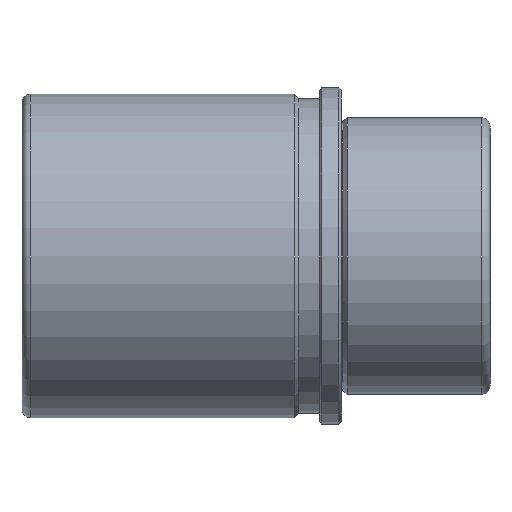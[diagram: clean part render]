
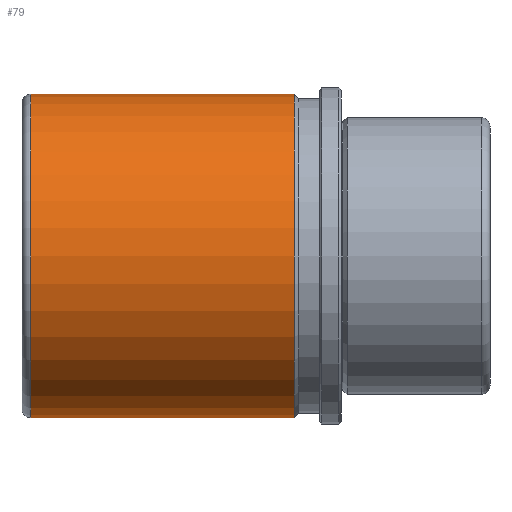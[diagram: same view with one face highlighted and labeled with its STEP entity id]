
A CAD part, front view. The second image highlights one B-rep face of the part: STEP entity #79.
In plain terms, the highlighted cylindrical face has radius 38 mm (diameter 76 mm), a full revolution.
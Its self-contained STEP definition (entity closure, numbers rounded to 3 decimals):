
#79 = ADVANCED_FACE( '', ( #173, #174, #175 ), #176, .T. );
#173 = FACE_OUTER_BOUND( '', #266, .T. );
#174 = FACE_BOUND( '', #267, .T. );
#175 = FACE_OUTER_BOUND( '', #268, .T. );
#176 = CYLINDRICAL_SURFACE( '', #269, 38. );
#266 = EDGE_LOOP( '', ( #387 ) );
#267 = EDGE_LOOP( '', ( #388 ) );
#268 = EDGE_LOOP( '', ( #389 ) );
#269 = AXIS2_PLACEMENT_3D( '', #390, #391, #392 );
#387 = ORIENTED_EDGE( '', *, *, #439, .T. );
#388 = ORIENTED_EDGE( '', *, *, #437, .T. );
#389 = ORIENTED_EDGE( '', *, *, #443, .F. );
#390 = CARTESIAN_POINT( '', ( 35., 0., 0. ) );
#391 = DIRECTION( '', ( -1., 0., 0. ) );
#392 = DIRECTION( '', ( 0., 0., -1. ) );
#437 = EDGE_CURVE( '', #495, #495, #496, .T. );
#439 = EDGE_CURVE( '', #498, #498, #499, .T. );
#443 = EDGE_CURVE( '', #504, #504, #505, .T. );
#495 = VERTEX_POINT( '', #625 );
#496 = B_SPLINE_CURVE_WITH_KNOTS( '', 3, ( #626, #627, #628, #629, #630, #631, #632, #633, #634, #635, #636, #637, #638, #639, #640, #641, #642, #643, #644, #645, #646, #647, #648, #649, #650, #651, #652, #653, #654, #655, #656, #657, #658, #659, #660, #661, #662, #663, #664, #665, #666, #667, #668, #669, #670, #671, #672, #673, #674, #675, #676, #677, #678, #679, #680, #681, #682, #683, #684, #685, #686, #687, #688, #689, #690, #691 ), .UNSPECIFIED., .T., .F., ( 2, 2, 2, 2, 2, 2, 2, 2, 2, 2, 2, 2, 2, 2, 2, 2, 2, 2, 2, 2, 2, 2, 2, 2, 2, 2, 2, 2, 2, 2, 2, 2, 2, 2, 2 ), ( -0.001, 0., 0.001, 0.002, 0.002, 0.003, 0.004, 0.005, 0.006, 0.007, 0.007, 0.008, 0.009, 0.01, 0.011, 0.011, 0.012, 0.013, 0.014, 0.015, 0.016, 0.016, 0.017, 0.018, 0.019, 0.02, 0.02, 0.021, 0.022, 0.023, 0.024, 0.025, 0.025, 0.026, 0.027 ), .UNSPECIFIED. );
#498 = VERTEX_POINT( '', #693 );
#499 = CIRCLE( '', #694, 38. );
#504 = VERTEX_POINT( '', #699 );
#505 = CIRCLE( '', #700, 38. );
#625 = CARTESIAN_POINT( '', ( -18., 37.769, -4.188 ) );
#626 = CARTESIAN_POINT( '', ( -18.277, 37.769, -4.188 ) );
#627 = CARTESIAN_POINT( '', ( -17.723, 37.769, -4.188 ) );
#628 = CARTESIAN_POINT( '', ( -17.451, 37.772, -4.161 ) );
#629 = CARTESIAN_POINT( '', ( -16.915, 37.783, -4.054 ) );
#630 = CARTESIAN_POINT( '', ( -16.649, 37.792, -3.974 ) );
#631 = CARTESIAN_POINT( '', ( -16.142, 37.813, -3.763 ) );
#632 = CARTESIAN_POINT( '', ( -15.902, 37.826, -3.635 ) );
#633 = CARTESIAN_POINT( '', ( -15.447, 37.854, -3.331 ) );
#634 = CARTESIAN_POINT( '', ( -15.231, 37.869, -3.154 ) );
#635 = CARTESIAN_POINT( '', ( -14.845, 37.9, -2.768 ) );
#636 = CARTESIAN_POINT( '', ( -14.672, 37.915, -2.557 ) );
#637 = CARTESIAN_POINT( '', ( -14.366, 37.943, -2.1 ) );
#638 = CARTESIAN_POINT( '', ( -14.236, 37.955, -1.856 ) );
#639 = CARTESIAN_POINT( '', ( -14.027, 37.977, -1.352 ) );
#640 = CARTESIAN_POINT( '', ( -13.946, 37.985, -1.088 ) );
#641 = CARTESIAN_POINT( '', ( -13.839, 37.997, -0.548 ) );
#642 = CARTESIAN_POINT( '', ( -13.812, 38., -0.276 ) );
#643 = CARTESIAN_POINT( '', ( -13.812, 38., 0.271 ) );
#644 = CARTESIAN_POINT( '', ( -13.839, 37.997, 0.549 ) );
#645 = CARTESIAN_POINT( '', ( -13.946, 37.985, 1.086 ) );
#646 = CARTESIAN_POINT( '', ( -14.025, 37.977, 1.347 ) );
#647 = CARTESIAN_POINT( '', ( -14.235, 37.956, 1.854 ) );
#648 = CARTESIAN_POINT( '', ( -14.366, 37.943, 2.099 ) );
#649 = CARTESIAN_POINT( '', ( -14.669, 37.915, 2.553 ) );
#650 = CARTESIAN_POINT( '', ( -14.842, 37.9, 2.765 ) );
#651 = CARTESIAN_POINT( '', ( -15.233, 37.869, 3.156 ) );
#652 = CARTESIAN_POINT( '', ( -15.444, 37.854, 3.329 ) );
#653 = CARTESIAN_POINT( '', ( -15.897, 37.826, 3.632 ) );
#654 = CARTESIAN_POINT( '', ( -16.142, 37.813, 3.763 ) );
#655 = CARTESIAN_POINT( '', ( -16.649, 37.792, 3.974 ) );
#656 = CARTESIAN_POINT( '', ( -16.91, 37.783, 4.053 ) );
#657 = CARTESIAN_POINT( '', ( -17.447, 37.772, 4.16 ) );
#658 = CARTESIAN_POINT( '', ( -17.725, 37.769, 4.188 ) );
#659 = CARTESIAN_POINT( '', ( -18.272, 37.769, 4.188 ) );
#660 = CARTESIAN_POINT( '', ( -18.544, 37.771, 4.162 ) );
#661 = CARTESIAN_POINT( '', ( -19.084, 37.783, 4.055 ) );
#662 = CARTESIAN_POINT( '', ( -19.349, 37.792, 3.974 ) );
#663 = CARTESIAN_POINT( '', ( -19.853, 37.813, 3.766 ) );
#664 = CARTESIAN_POINT( '', ( -20.097, 37.826, 3.636 ) );
#665 = CARTESIAN_POINT( '', ( -20.554, 37.854, 3.33 ) );
#666 = CARTESIAN_POINT( '', ( -20.765, 37.869, 3.157 ) );
#667 = CARTESIAN_POINT( '', ( -21.152, 37.899, 2.771 ) );
#668 = CARTESIAN_POINT( '', ( -21.329, 37.915, 2.556 ) );
#669 = CARTESIAN_POINT( '', ( -21.633, 37.943, 2.101 ) );
#670 = CARTESIAN_POINT( '', ( -21.762, 37.955, 1.861 ) );
#671 = CARTESIAN_POINT( '', ( -21.972, 37.977, 1.354 ) );
#672 = CARTESIAN_POINT( '', ( -22.053, 37.985, 1.088 ) );
#673 = CARTESIAN_POINT( '', ( -22.16, 37.997, 0.553 ) );
#674 = CARTESIAN_POINT( '', ( -22.188, 38., 0.281 ) );
#675 = CARTESIAN_POINT( '', ( -22.188, 38., -0.273 ) );
#676 = CARTESIAN_POINT( '', ( -22.161, 37.997, -0.545 ) );
#677 = CARTESIAN_POINT( '', ( -22.055, 37.986, -1.081 ) );
#678 = CARTESIAN_POINT( '', ( -21.975, 37.977, -1.347 ) );
#679 = CARTESIAN_POINT( '', ( -21.765, 37.956, -1.854 ) );
#680 = CARTESIAN_POINT( '', ( -21.637, 37.943, -2.095 ) );
#681 = CARTESIAN_POINT( '', ( -21.333, 37.915, -2.55 ) );
#682 = CARTESIAN_POINT( '', ( -21.157, 37.9, -2.766 ) );
#683 = CARTESIAN_POINT( '', ( -20.771, 37.87, -3.152 ) );
#684 = CARTESIAN_POINT( '', ( -20.56, 37.855, -3.326 ) );
#685 = CARTESIAN_POINT( '', ( -20.103, 37.826, -3.632 ) );
#686 = CARTESIAN_POINT( '', ( -19.859, 37.813, -3.762 ) );
#687 = CARTESIAN_POINT( '', ( -19.356, 37.792, -3.972 ) );
#688 = CARTESIAN_POINT( '', ( -19.092, 37.783, -4.052 ) );
#689 = CARTESIAN_POINT( '', ( -18.551, 37.772, -4.161 ) );
#690 = CARTESIAN_POINT( '', ( -18.277, 37.769, -4.188 ) );
#691 = CARTESIAN_POINT( '', ( -17.723, 37.769, -4.188 ) );
#693 = CARTESIAN_POINT( '', ( -73., 0., -38. ) );
#694 = AXIS2_PLACEMENT_3D( '', #756, #757, #758 );
#699 = CARTESIAN_POINT( '', ( -11., 0., -38. ) );
#700 = AXIS2_PLACEMENT_3D( '', #762, #763, #764 );
#756 = CARTESIAN_POINT( '', ( -73., 0., 0. ) );
#757 = DIRECTION( '', ( 1., 0., 0. ) );
#758 = DIRECTION( '', ( 0., 0., -1. ) );
#762 = CARTESIAN_POINT( '', ( -11., 0., 0. ) );
#763 = DIRECTION( '', ( 1., 0., 0. ) );
#764 = DIRECTION( '', ( 0., 0., -1. ) );
